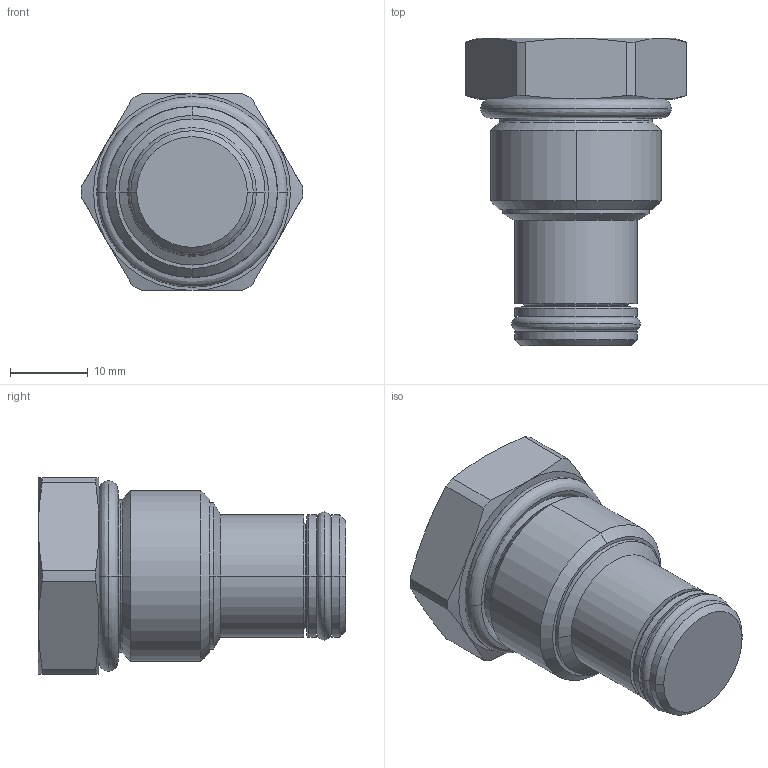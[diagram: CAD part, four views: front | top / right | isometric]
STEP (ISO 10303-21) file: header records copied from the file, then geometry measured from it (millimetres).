
FILE_DESCRIPTION((''),'2;1');
FILE_NAME('5214000_SW0001','2009-01-29T',('JCS'),(''),'PRO/ENGINEER BY PARAMETRIC TECHNOLOGY CORPORATION, 2008010','PRO/ENGINEER BY PARAMETRIC TECHNOLOGY CORPORATION, 2008010','');
FILE_SCHEMA(('CONFIG_CONTROL_DESIGN'));
Length unit declared in the file: inch
Products named in the file (1): 5214000_SW0001
Bounding box: 28.57 x 39.65 x 25.4 mm (x, y, z)
Volume: 13282.9 mm3; surface area: 4525.4 mm2
Topology: 2 solids, 2 shells, 89 faces, 188 edges, 104 vertices
Faces by surface type: cone 24, cylinder 24, revolution 16, torus 14, plane 11
Entity records: 2728 total; most frequent: CARTESIAN_POINT 791, DIRECTION 416, ORIENTED_EDGE 376, EDGE_CURVE 188, AXIS2_PLACEMENT_3D 179, CIRCLE 106, VERTEX_POINT 104, EDGE_LOOP 92
